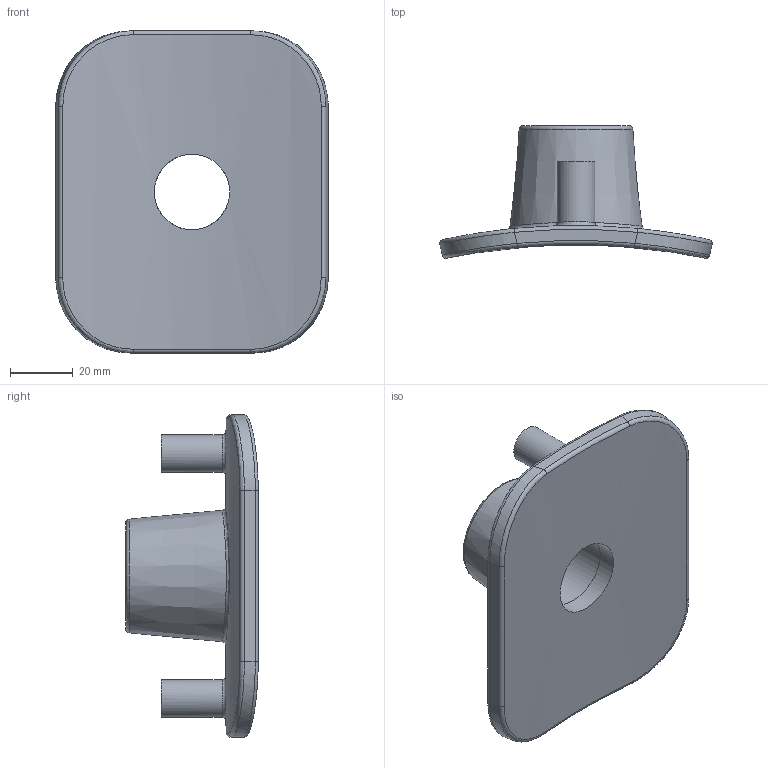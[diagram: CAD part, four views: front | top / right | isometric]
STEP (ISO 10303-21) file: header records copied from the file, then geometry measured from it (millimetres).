
FILE_DESCRIPTION(/* description */ ('PLASSON SENSOR ADAPTOR 3/4'''''),/* implementation_level */ '2;1');
FILE_NAME(/* name */ 'C:\Dropbox\KIMPROJECTS-Inventor\99-16-3568-Processing\ElectroFusion Fittings\24.01.19\493803\493803400007_493803900007.ipt.stp',/* time_stamp */ '2019-01-24T13:53:52+02:00',/* author */ ('KIM'),/* organization */ (''),/* preprocessor_version */ 'ST-DEVELOPER v15.6',/* originating_system */ 'Autodesk Inventor 2015',/* authorisation */ '');
FILE_SCHEMA (('AUTOMOTIVE_DESIGN { 1 0 10303 214 3 1 1 }'));
Length unit declared in the file: millimetre
Products named in the file (1): 493803400007_493803900007
Bounding box: 87.09 x 42.34 x 103 mm (x, y, z)
Volume: 76961.7 mm3; surface area: 25610.6 mm2
Topology: 1 solids, 1 shells, 39 faces, 84 edges, 50 vertices
Faces by surface type: cylinder 13, bspline 12, plane 7, torus 6, cone 1
Full cylindrical faces by diameter (mm): 12.059 x2, 24.117 x1
Entity records: 1815 total; most frequent: CARTESIAN_POINT 1011, ORIENTED_EDGE 148, DIRECTION 139, EDGE_CURVE 74, AXIS2_PLACEMENT_3D 61, EDGE_LOOP 50, VERTEX_POINT 46, STYLED_ITEM 40
